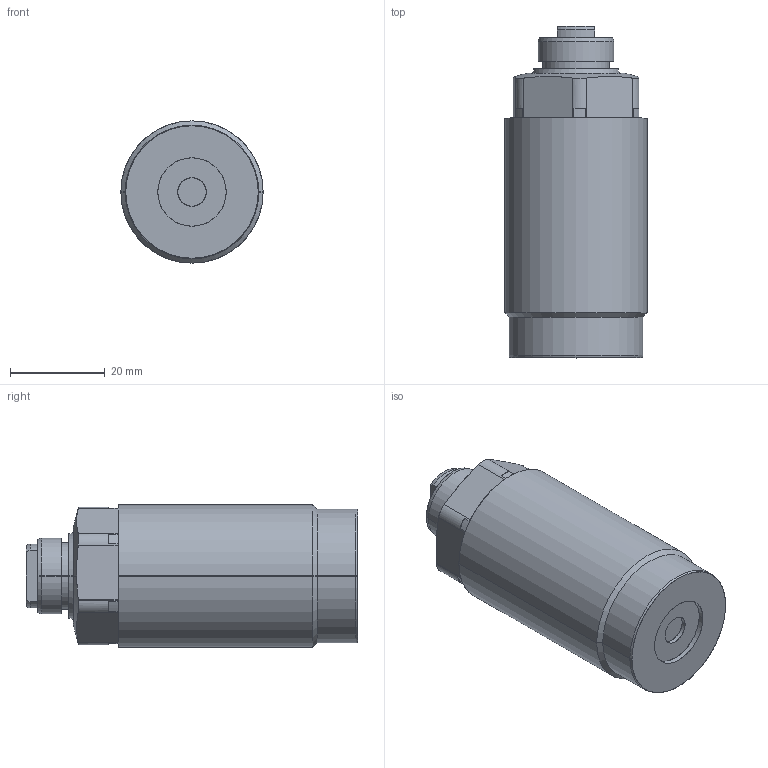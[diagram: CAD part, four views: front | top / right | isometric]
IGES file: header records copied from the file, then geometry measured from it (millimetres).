
Start section: SolidWorks IGES file using analytic representation for surfaces
Global section: file name: E:\karthik\CLASYS\FOR CD\Pneumatics\0211 Work Support(Threaded Body)\pneu advance\0211-0301\0211-0301.IGS; native system: SolidWorks 2010; preprocessor: SolidWorks 2010; author: karthik; date: 130917.153502; units: millimetre
Bounding box: 30 x 70 x 30 mm (x, y, z)
Surface area: 7442.6 mm2 (no closed solid volume)
Topology: 0 solids, 0 shells, 62 faces, 880 edges, 880 vertices
Faces by surface type: revolution 39, bspline 23
